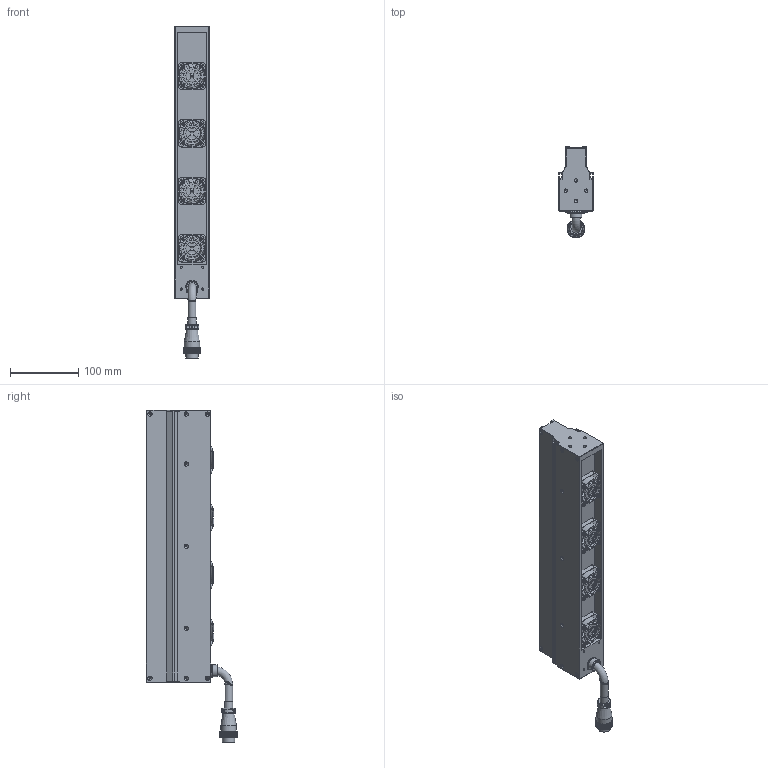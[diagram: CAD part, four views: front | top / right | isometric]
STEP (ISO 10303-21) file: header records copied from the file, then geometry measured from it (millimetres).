
FILE_DESCRIPTION (( 'STEP AP203' ), '1' );
FILE_NAME ('OPT-LSS398-W-V3.1U尨砩芞.STEP', '2025-01-21T02:08:55', ( 'USER' ), ( '' ), 'SwSTEP 2.0', 'SolidWorks 2016', '' );
FILE_SCHEMA (( 'CONFIG_CONTROL_DESIGN' ));
Products named in the file (2): OPT-LSS398-W-V3.1U尨砩芞
Bounding box: 50 x 133 x 485.1 mm (x, y, z)
Volume: 1366173.5 mm3; surface area: 242048.9 mm2
Topology: 22 solids, 34 shells, 2764 faces, 7063 edges, 4468 vertices
Faces by surface type: bspline 1051, cylinder 823, plane 607, torus 232, cone 51
Full cylindrical faces by diameter (mm): 1 x2, 1.1 x2, 1.4 x2, 1.6 x16, 2 x4, 2.5 x22, 3 x4, 3.2 x20, 3.4 x18, 3.5 x8, 5 x8, 6.2 x16, 8 x1, 11.6 x1, 11.7 x3, 12 x1, 15 x1, 15.9 x1, 17.5 x1, 18 x1, 18.5 x1, 22.8 x1, 24 x1, 24.8 x4, 38 x4
Entity records: 103924 total; most frequent: CARTESIAN_POINT 49070, ORIENTED_EDGE 13378, DIRECTION 7317, EDGE_CURVE 6689, VERTEX_POINT 4381, B_SPLINE_CURVE_WITH_KNOTS 4077, EDGE_LOOP 3190, AXIS2_PLACEMENT_3D 2998
